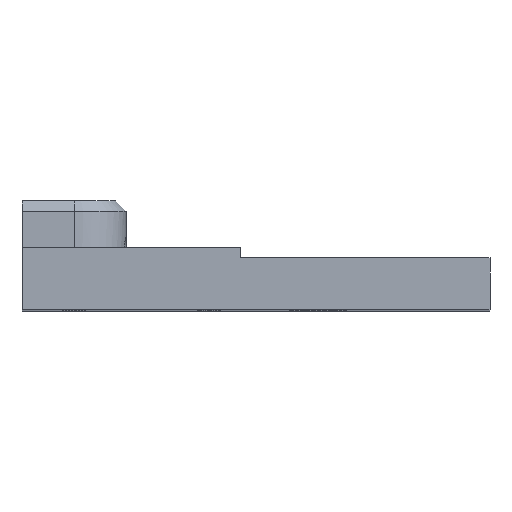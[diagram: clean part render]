
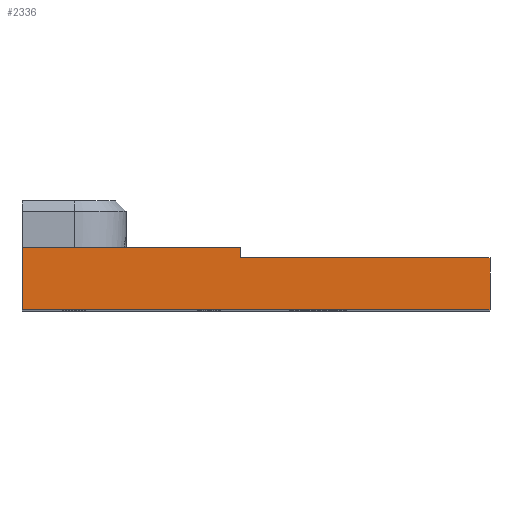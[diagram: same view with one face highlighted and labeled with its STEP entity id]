
A CAD part, top view. The second image highlights one B-rep face of the part: STEP entity #2336.
In plain terms, the highlighted planar face has unit normal (0, 0, 1).
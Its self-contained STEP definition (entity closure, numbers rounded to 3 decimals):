
#85 = VERTEX_POINT ( 'NONE', #1253 ) ;
#161 = CARTESIAN_POINT ( 'NONE',  ( 45., 12., 75.5 ) ) ;
#256 = LINE ( 'NONE', #2727, #2127 ) ;
#337 = DIRECTION ( 'NONE',  ( 1., 0., 0. ) ) ;
#364 = VECTOR ( 'NONE', #986, 1000. ) ;
#430 = VERTEX_POINT ( 'NONE', #1899 ) ;
#451 = CARTESIAN_POINT ( 'NONE',  ( -45., 12., 75.5 ) ) ;
#459 = VERTEX_POINT ( 'NONE', #2486 ) ;
#485 = VECTOR ( 'NONE', #2118, 1000. ) ;
#662 = CARTESIAN_POINT ( 'NONE',  ( -45., 12., 75.5 ) ) ;
#724 = CARTESIAN_POINT ( 'NONE',  ( -45., 12., 75.5 ) ) ;
#742 = CARTESIAN_POINT ( 'NONE',  ( 45., 0., 75.5 ) ) ;
#767 = LINE ( 'NONE', #161, #485 ) ;
#901 = EDGE_LOOP ( 'NONE', ( #2335, #2447, #978, #1769, #2280, #1456 ) ) ;
#978 = ORIENTED_EDGE ( 'NONE', *, *, #1967, .F. ) ;
#979 = VERTEX_POINT ( 'NONE', #1616 ) ;
#986 = DIRECTION ( 'NONE',  ( 1., 0., 0. ) ) ;
#1038 = VERTEX_POINT ( 'NONE', #742 ) ;
#1065 = LINE ( 'NONE', #2743, #2531 ) ;
#1089 = CARTESIAN_POINT ( 'NONE',  ( 45., 10., 75.5 ) ) ;
#1226 = VECTOR ( 'NONE', #1387, 1000. ) ;
#1253 = CARTESIAN_POINT ( 'NONE',  ( -45., 12., 75.5 ) ) ;
#1387 = DIRECTION ( 'NONE',  ( 1., 0., 0. ) ) ;
#1389 = LINE ( 'NONE', #662, #3061 ) ;
#1390 = DIRECTION ( 'NONE',  ( -1., 0., 0. ) ) ;
#1456 = ORIENTED_EDGE ( 'NONE', *, *, #2452, .F. ) ;
#1594 = PLANE ( 'NONE',  #1771 ) ;
#1616 = CARTESIAN_POINT ( 'NONE',  ( -3., 10., 75.5 ) ) ;
#1692 = LINE ( 'NONE', #724, #364 ) ;
#1769 = ORIENTED_EDGE ( 'NONE', *, *, #2019, .T. ) ;
#1771 = AXIS2_PLACEMENT_3D ( 'NONE', #451, #2143, #1390 ) ;
#1899 = CARTESIAN_POINT ( 'NONE',  ( 45., 10., 75.5 ) ) ;
#1967 = EDGE_CURVE ( 'NONE', #85, #2080, #1692, .T. ) ;
#1986 = EDGE_CURVE ( 'NONE', #979, #430, #2304, .T. ) ;
#1994 = EDGE_CURVE ( 'NONE', #979, #2080, #1065, .T. ) ;
#2019 = EDGE_CURVE ( 'NONE', #85, #459, #1389, .T. ) ;
#2036 = EDGE_CURVE ( 'NONE', #459, #1038, #256, .T. ) ;
#2080 = VERTEX_POINT ( 'NONE', #3059 ) ;
#2118 = DIRECTION ( 'NONE',  ( 0., -1., 0. ) ) ;
#2127 = VECTOR ( 'NONE', #337, 1000. ) ;
#2143 = DIRECTION ( 'NONE',  ( 0., 0., -1. ) ) ;
#2194 = DIRECTION ( 'NONE',  ( 0., -1., 0. ) ) ;
#2280 = ORIENTED_EDGE ( 'NONE', *, *, #2036, .T. ) ;
#2304 = LINE ( 'NONE', #1089, #1226 ) ;
#2335 = ORIENTED_EDGE ( 'NONE', *, *, #1986, .F. ) ;
#2336 = ADVANCED_FACE ( 'NONE', ( #2991 ), #1594, .F. ) ;
#2406 = DIRECTION ( 'NONE',  ( 0., 1., 0. ) ) ;
#2447 = ORIENTED_EDGE ( 'NONE', *, *, #1994, .T. ) ;
#2452 = EDGE_CURVE ( 'NONE', #430, #1038, #767, .T. ) ;
#2486 = CARTESIAN_POINT ( 'NONE',  ( -45., 0., 75.5 ) ) ;
#2531 = VECTOR ( 'NONE', #2406, 1000. ) ;
#2727 = CARTESIAN_POINT ( 'NONE',  ( -45., 0., 75.5 ) ) ;
#2743 = CARTESIAN_POINT ( 'NONE',  ( -3., 10., 75.5 ) ) ;
#2991 = FACE_OUTER_BOUND ( 'NONE', #901, .T. ) ;
#3059 = CARTESIAN_POINT ( 'NONE',  ( -3., 12., 75.5 ) ) ;
#3061 = VECTOR ( 'NONE', #2194, 1000. ) ;
